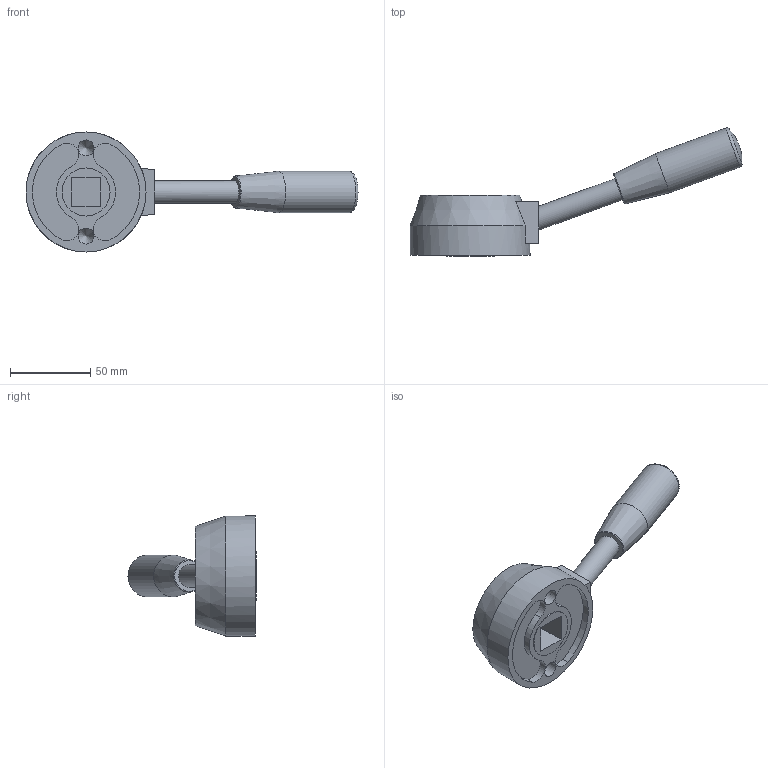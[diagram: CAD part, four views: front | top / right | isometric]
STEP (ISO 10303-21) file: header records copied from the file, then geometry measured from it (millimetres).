
FILE_DESCRIPTION( ( 'STEP AP203' ), '1' );
FILE_NAME( 'C:/Temp/Ganter_Step_05_03_2020/data/2_1/gn_512/gn_512_v/Control lever GN 512-75-V18.stp', '2020-03-05T11:51:45', ( 'License CC BY-ND 4.0' ), ( 'CADENAS' ), ' ', 'PARTsolutions', ' ' );
FILE_SCHEMA( ( 'CONFIG_CONTROL_DESIGN' ) );
Length unit declared in the file: millimetre
Products named in the file (1): _Control lever GN 512-75-V18
Bounding box: 207.44 x 80.09 x 75 mm (x, y, z)
Volume: 179934.4 mm3; surface area: 31593.2 mm2
Topology: 1 solids, 1 shells, 39 faces, 89 edges, 58 vertices
Faces by surface type: plane 17, cylinder 15, cone 4, torus 2, sphere 1
Full cylindrical faces by diameter (mm): 10 x2, 14 x1, 26 x1, 30 x1, 42 x1, 75 x1
Entity records: 1032 total; most frequent: DIRECTION 182, CARTESIAN_POINT 168, ORIENTED_EDGE 136, AXIS2_PLACEMENT_3D 76, EDGE_CURVE 68, EDGE_LOOP 59, VERTEX_POINT 54, FACE_OUTER_BOUND 48
